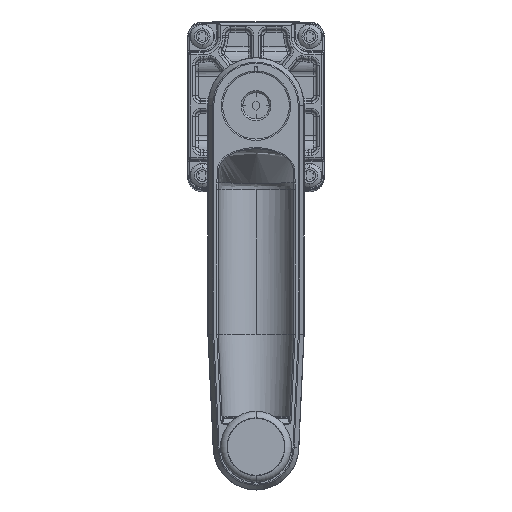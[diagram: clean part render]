
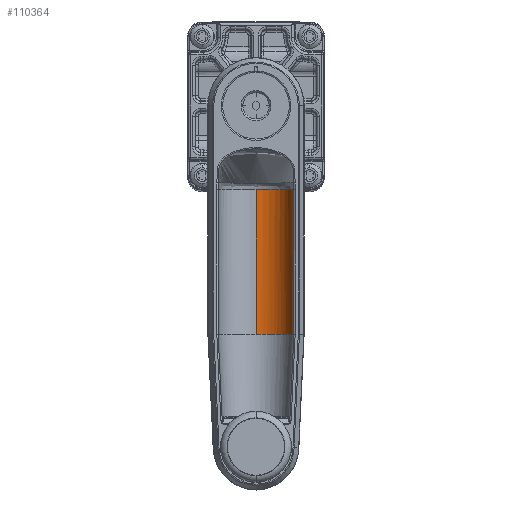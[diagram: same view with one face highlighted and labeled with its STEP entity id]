
A CAD part, top view. The second image highlights one B-rep face of the part: STEP entity #110364.
In plain terms, the highlighted cylindrical face has radius 14.25 mm (diameter 28.5 mm), a partial arc.
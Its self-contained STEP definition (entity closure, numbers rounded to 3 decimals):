
#628 = LINE ( 'NONE', #52252, #116476 ) ;
#1090 = CARTESIAN_POINT ( 'NONE',  ( 0.718, -6.882, -39.263 ) ) ;
#2572 = ORIENTED_EDGE ( 'NONE', *, *, #65737, .F. ) ;
#2809 = AXIS2_PLACEMENT_3D ( 'NONE', #65581, #47047, #10808 ) ;
#3573 = CARTESIAN_POINT ( 'NONE',  ( 1.114, -6.882, -39.053 ) ) ;
#5497 = EDGE_CURVE ( 'NONE', #51086, #62366, #48353, .T. ) ;
#6246 = VERTEX_POINT ( 'NONE', #54673 ) ;
#6618 = EDGE_CURVE ( 'NONE', #97001, #82570, #75154, .T. ) ;
#6767 = DIRECTION ( 'NONE',  ( 0., -1., 0. ) ) ;
#7986 = CARTESIAN_POINT ( 'NONE',  ( -5.113, -6.882, -40.717 ) ) ;
#8487 = CARTESIAN_POINT ( 'NONE',  ( -5.569, 48.118, -40.717 ) ) ;
#10309 = CARTESIAN_POINT ( 'NONE',  ( -0.088, -6.882, -39.644 ) ) ;
#10808 = DIRECTION ( 'NONE',  ( 0., 0., -1. ) ) ;
#14247 = ORIENTED_EDGE ( 'NONE', *, *, #61379, .F. ) ;
#15190 = CARTESIAN_POINT ( 'NONE',  ( 8.145, -6.882, -30.342 ) ) ;
#15471 = DIRECTION ( 'NONE',  ( 0., 1., 0. ) ) ;
#17162 = B_SPLINE_CURVE_WITH_KNOTS ( 'NONE', 3,
 ( #93074, #29143, #102220, #47399 ),
 .UNSPECIFIED., .F., .F.,
 ( 4, 4 ),
 ( 0.405, 0.47 ),
 .UNSPECIFIED. ) ;
#17672 = CARTESIAN_POINT ( 'NONE',  ( 8.691, -6.882, -26.467 ) ) ;
#17693 = B_SPLINE_CURVE_WITH_KNOTS ( 'NONE', 3,
 ( #65438, #56165, #47298, #111300, #56559 ),
 .UNSPECIFIED., .F., .F.,
 ( 4, 1, 4 ),
 ( 0.155, 0.25, 0.345 ),
 .UNSPECIFIED. ) ;
#18933 = CARTESIAN_POINT ( 'NONE',  ( 7.639, -6.882, -31.879 ) ) ;
#19462 = CARTESIAN_POINT ( 'NONE',  ( -1.351, -6.882, -40.079 ) ) ;
#23760 = VERTEX_POINT ( 'NONE', #108756 ) ;
#26297 = VERTEX_POINT ( 'NONE', #3573 ) ;
#26918 = CARTESIAN_POINT ( 'NONE',  ( 8.534, -6.882, -28.826 ) ) ;
#28175 = CARTESIAN_POINT ( 'NONE',  ( 7.027, -6.882, -33.132 ) ) ;
#28224 = LINE ( 'NONE', #8487, #73969 ) ;
#29143 = CARTESIAN_POINT ( 'NONE',  ( -2.279, -6.882, -40.365 ) ) ;
#37807 = VERTEX_POINT ( 'NONE', #44359 ) ;
#38480 = CARTESIAN_POINT ( 'NONE',  ( 8.245, -6.882, -29.972 ) ) ;
#38516 = ORIENTED_EDGE ( 'NONE', *, *, #113753, .F. ) ;
#39308 = CARTESIAN_POINT ( 'NONE',  ( 8.691, -6.882, -26.467 ) ) ;
#42256 = CARTESIAN_POINT ( 'NONE',  ( 8.196, -6.882, -30.157 ) ) ;
#42950 = EDGE_CURVE ( 'NONE', #62366, #95186, #73859, .T. ) ;
#44359 = CARTESIAN_POINT ( 'NONE',  ( 7.027, -6.882, -33.132 ) ) ;
#44750 = CARTESIAN_POINT ( 'NONE',  ( 8.691, -6.882, -26.467 ) ) ;
#47047 = DIRECTION ( 'NONE',  ( 0., -1., 0. ) ) ;
#47298 = CARTESIAN_POINT ( 'NONE',  ( 4.672, -6.882, -36.681 ) ) ;
#47399 = CARTESIAN_POINT ( 'NONE',  ( -4.203, -6.882, -40.652 ) ) ;
#48353 = B_SPLINE_CURVE_WITH_KNOTS ( 'NONE', 3,
 ( #17672, #44750, #108727, #81671, #26918, #90824 ),
 .UNSPECIFIED., .F., .F.,
 ( 4, 2, 4 ),
 ( 0., 0., 0.079 ),
 .UNSPECIFIED. ) ;
#51086 = VERTEX_POINT ( 'NONE', #39308 ) ;
#52111 = ORIENTED_EDGE ( 'NONE', *, *, #55425, .F. ) ;
#52252 = CARTESIAN_POINT ( 'NONE',  ( 8.681, 48.118, -26.467 ) ) ;
#53475 = CARTESIAN_POINT ( 'NONE',  ( -4.203, -6.882, -40.652 ) ) ;
#54673 = CARTESIAN_POINT ( 'NONE',  ( -5.569, -6.882, -40.717 ) ) ;
#55321 = CARTESIAN_POINT ( 'NONE',  ( 8.681, 48.118, -26.467 ) ) ;
#55425 = EDGE_CURVE ( 'NONE', #26297, #23760, #68318, .T. ) ;
#56165 = CARTESIAN_POINT ( 'NONE',  ( 6.367, -6.882, -34.377 ) ) ;
#56559 = CARTESIAN_POINT ( 'NONE',  ( 1.114, -6.882, -39.053 ) ) ;
#59078 = ORIENTED_EDGE ( 'NONE', *, *, #6618, .T. ) ;
#61379 = EDGE_CURVE ( 'NONE', #95186, #37807, #118035, .T. ) ;
#62366 = VERTEX_POINT ( 'NONE', #38480 ) ;
#63314 = B_SPLINE_CURVE_WITH_KNOTS ( 'NONE', 3,
 ( #53475, #108213, #7986, #71951 ),
 .UNSPECIFIED., .F., .F.,
 ( 4, 4 ),
 ( 0.47, 0.5 ),
 .UNSPECIFIED. ) ;
#65438 = CARTESIAN_POINT ( 'NONE',  ( 7.027, -6.882, -33.132 ) ) ;
#65581 = CARTESIAN_POINT ( 'NONE',  ( -5.569, 48.118, -26.467 ) ) ;
#65723 = ORIENTED_EDGE ( 'NONE', *, *, #75566, .T. ) ;
#65737 = EDGE_CURVE ( 'NONE', #97001, #51086, #628, .T. ) ;
#68318 = B_SPLINE_CURVE_WITH_KNOTS ( 'NONE', 3,
 ( #110557, #1090, #10309, #74288, #19462 ),
 .UNSPECIFIED., .F., .F.,
 ( 4, 1, 4 ),
 ( 0.345, 0.375, 0.405 ),
 .UNSPECIFIED. ) ;
#68803 = CARTESIAN_POINT ( 'NONE',  ( 8.245, -6.882, -29.972 ) ) ;
#70278 = CARTESIAN_POINT ( 'NONE',  ( -5.569, 48.118, -26.467 ) ) ;
#71951 = CARTESIAN_POINT ( 'NONE',  ( -5.569, -6.882, -40.717 ) ) ;
#73132 = CYLINDRICAL_SURFACE ( 'NONE', #2809, 14.25 ) ;
#73859 = B_SPLINE_CURVE_WITH_KNOTS ( 'NONE', 3,
 ( #68803, #42256, #15190, #79185 ),
 .UNSPECIFIED., .F., .F.,
 ( 4, 4 ),
 ( 0.079, 0.092 ),
 .UNSPECIFIED. ) ;
#73934 = CARTESIAN_POINT ( 'NONE',  ( 8.092, -6.882, -30.526 ) ) ;
#73969 = VECTOR ( 'NONE', #82056, 1000. ) ;
#74288 = CARTESIAN_POINT ( 'NONE',  ( -0.928, -6.882, -39.947 ) ) ;
#75154 = CIRCLE ( 'NONE', #111563, 14.25 ) ;
#75566 = EDGE_CURVE ( 'NONE', #82570, #6246, #28224, .T. ) ;
#76398 = CARTESIAN_POINT ( 'NONE',  ( -5.569, 48.118, -40.717 ) ) ;
#79185 = CARTESIAN_POINT ( 'NONE',  ( 8.092, -6.882, -30.526 ) ) ;
#79475 = DIRECTION ( 'NONE',  ( 0., 0., 1. ) ) ;
#81671 = CARTESIAN_POINT ( 'NONE',  ( 8.685, -6.882, -27.645 ) ) ;
#82056 = DIRECTION ( 'NONE',  ( 0., -1., 0. ) ) ;
#82528 = CARTESIAN_POINT ( 'NONE',  ( 8.092, -6.882, -30.526 ) ) ;
#82570 = VERTEX_POINT ( 'NONE', #76398 ) ;
#82904 = CARTESIAN_POINT ( 'NONE',  ( 7.239, -6.882, -32.731 ) ) ;
#85726 = EDGE_LOOP ( 'NONE', ( #59078, #65723, #38516, #95705, #52111, #91018, #14247, #97889, #98882, #2572 ) ) ;
#90272 = EDGE_CURVE ( 'NONE', #37807, #26297, #17693, .T. ) ;
#90572 = VERTEX_POINT ( 'NONE', #106864 ) ;
#90824 = CARTESIAN_POINT ( 'NONE',  ( 8.245, -6.882, -29.972 ) ) ;
#91018 = ORIENTED_EDGE ( 'NONE', *, *, #90272, .F. ) ;
#93074 = CARTESIAN_POINT ( 'NONE',  ( -1.351, -6.882, -40.079 ) ) ;
#95186 = VERTEX_POINT ( 'NONE', #73934 ) ;
#95705 = ORIENTED_EDGE ( 'NONE', *, *, #112987, .F. ) ;
#97001 = VERTEX_POINT ( 'NONE', #55321 ) ;
#97889 = ORIENTED_EDGE ( 'NONE', *, *, #42950, .F. ) ;
#98882 = ORIENTED_EDGE ( 'NONE', *, *, #5497, .F. ) ;
#100257 = FACE_OUTER_BOUND ( 'NONE', #85726, .T. ) ;
#102220 = CARTESIAN_POINT ( 'NONE',  ( -3.237, -6.882, -40.557 ) ) ;
#106864 = CARTESIAN_POINT ( 'NONE',  ( -4.203, -6.882, -40.652 ) ) ;
#108213 = CARTESIAN_POINT ( 'NONE',  ( -4.657, -6.882, -40.695 ) ) ;
#108727 = CARTESIAN_POINT ( 'NONE',  ( 8.691, -6.882, -26.467 ) ) ;
#108756 = CARTESIAN_POINT ( 'NONE',  ( -1.351, -6.882, -40.079 ) ) ;
#109989 = CARTESIAN_POINT ( 'NONE',  ( 7.953, -6.882, -30.992 ) ) ;
#110364 = ADVANCED_FACE ( 'NONE', ( #100257 ), #73132, .F. ) ;
#110557 = CARTESIAN_POINT ( 'NONE',  ( 1.114, -6.882, -39.053 ) ) ;
#111300 = CARTESIAN_POINT ( 'NONE',  ( 2.369, -6.882, -38.385 ) ) ;
#111563 = AXIS2_PLACEMENT_3D ( 'NONE', #70278, #15471, #79475 ) ;
#112987 = EDGE_CURVE ( 'NONE', #23760, #90572, #17162, .T. ) ;
#113753 = EDGE_CURVE ( 'NONE', #90572, #6246, #63314, .T. ) ;
#116476 = VECTOR ( 'NONE', #6767, 1000. ) ;
#118035 = B_SPLINE_CURVE_WITH_KNOTS ( 'NONE', 3,
 ( #82528, #109989, #18933, #82904, #28175 ),
 .UNSPECIFIED., .F., .F.,
 ( 4, 1, 4 ),
 ( 0.092, 0.125, 0.155 ),
 .UNSPECIFIED. ) ;
